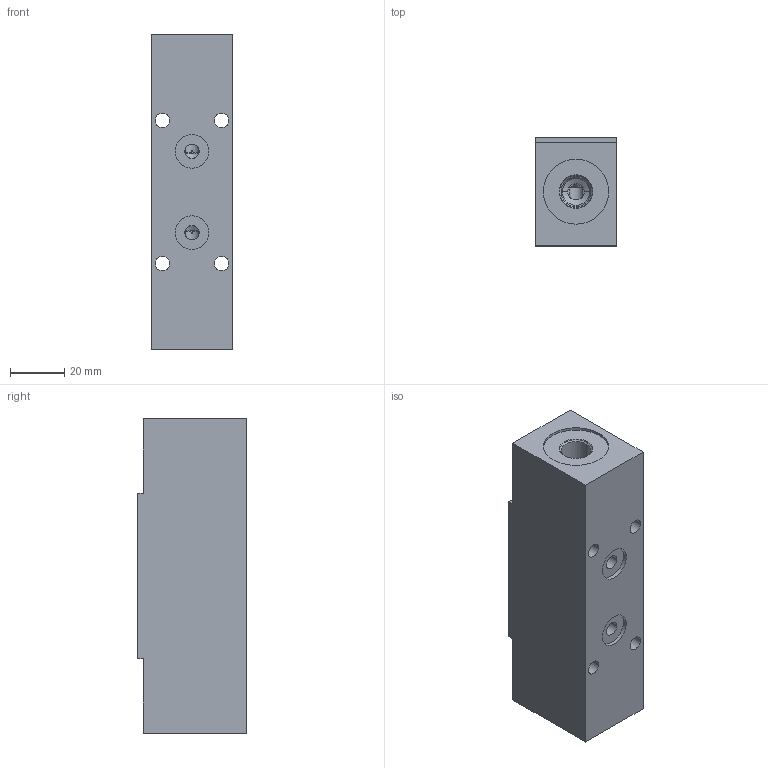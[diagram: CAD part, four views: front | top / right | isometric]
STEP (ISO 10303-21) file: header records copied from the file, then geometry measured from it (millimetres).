
FILE_DESCRIPTION((''),'2;1');
FILE_NAME('430015_ASM','2020-09-09T',('l.soukupova'),(''),'PRO/ENGINEER BY PARAMETRIC TECHNOLOGY CORPORATION, 2015440','PRO/ENGINEER BY PARAMETRIC TECHNOLOGY CORPORATION, 2015440','');
FILE_SCHEMA(('AUTOMOTIVE_DESIGN { 1 0 10303 214 1 1 1 1 }'));
Length unit declared in the file: millimetre
Products named in the file (2): 28619301; 430015_ASM
Assembly tree (1 placements, depth 2):
  430015_ASM
    28619301
Bounding box: 30 x 40 x 116 mm (x, y, z)
Volume: 123562.9 mm3; surface area: 25493.1 mm2
Topology: 1 solids, 3 shells, 80 faces, 242 edges, 190 vertices
Faces by surface type: cylinder 40, cone 24, plane 16
Entity records: 4346 total; most frequent: CARTESIAN_POINT 1147, DIRECTION 482, ORIENTED_EDGE 388, PRESENTATION_STYLE_ASSIGNMENT 263, STYLED_ITEM 253, CURVE_STYLE 250, EDGE_CURVE 198, AXIS2_PLACEMENT_3D 185
